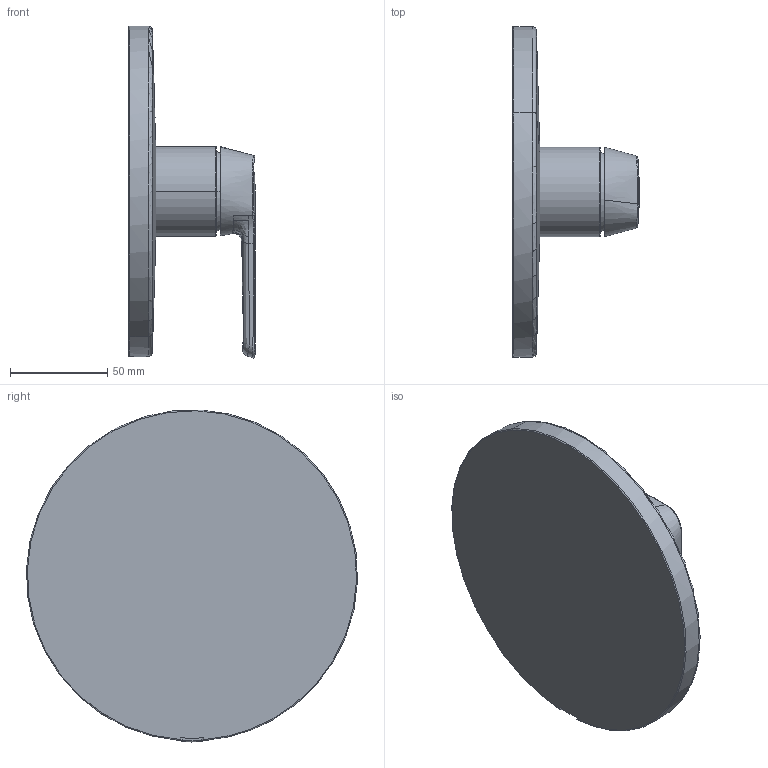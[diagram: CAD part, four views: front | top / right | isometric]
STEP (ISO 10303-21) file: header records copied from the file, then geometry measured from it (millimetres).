
FILE_DESCRIPTION((''),'2;1');
FILE_NAME('21414500','2018-07-03T',('ES997'),(''),'CREO PARAMETRIC BY PTC INC, 2016260','CREO PARAMETRIC BY PTC INC, 2016260','');
FILE_SCHEMA(('CONFIG_CONTROL_DESIGN'));
Length unit declared in the file: millimetre
Products named in the file (1): 21414500
Bounding box: 64.98 x 169.87 x 170.39 mm (x, y, z)
Volume: 384831.5 mm3; surface area: 67003.5 mm2
Topology: 1 solids, 1 shells, 93 faces, 227 edges, 139 vertices
Faces by surface type: bspline 34, cylinder 24, torus 17, plane 10, sphere 6, cone 2
Entity records: 12396 total; most frequent: CARTESIAN_POINT 10435, ORIENTED_EDGE 450, DIRECTION 327, EDGE_CURVE 225, AXIS2_PLACEMENT_3D 147, VERTEX_POINT 139, B_SPLINE_CURVE_WITH_KNOTS 104, EDGE_LOOP 98
